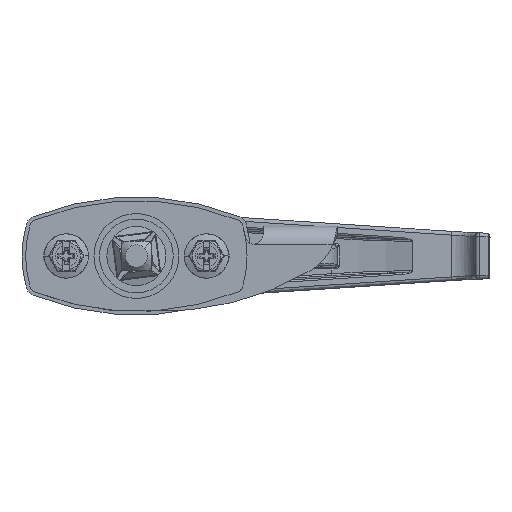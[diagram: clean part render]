
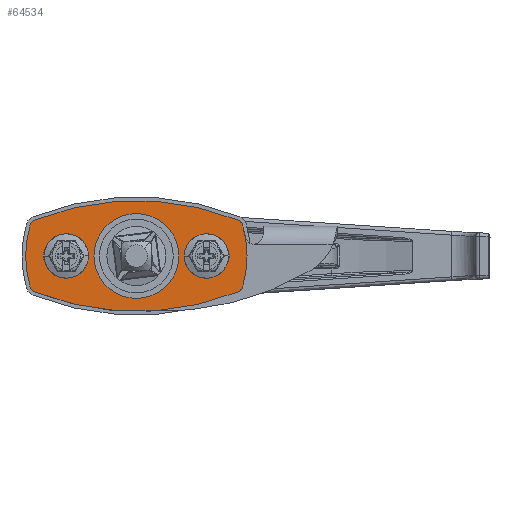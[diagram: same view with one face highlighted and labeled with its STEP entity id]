
A CAD part, front view. The second image highlights one B-rep face of the part: STEP entity #64534.
In plain terms, the highlighted planar face has unit normal (0, -1, 0).
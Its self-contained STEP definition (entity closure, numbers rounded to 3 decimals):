
#64241=CARTESIAN_POINT('',(-109.63,75.5,-16.209));
#64242=DIRECTION('',(0.,-1.,0.));
#64243=DIRECTION('',(-1.,0.,0.));
#64244=AXIS2_PLACEMENT_3D('',#64241,#64242,#64243);
#64246=CARTESIAN_POINT('',(-109.63,75.5,-16.209));
#64247=DIRECTION('',(0.,-1.,0.));
#64248=DIRECTION('',(1.,0.,0.));
#64249=AXIS2_PLACEMENT_3D('',#64246,#64247,#64248);
#64251=CARTESIAN_POINT('',(-90.63,75.5,-16.209));
#64252=DIRECTION('',(0.,-1.,0.));
#64253=DIRECTION('',(0.636,0.,0.771));
#64254=AXIS2_PLACEMENT_3D('',#64251,#64252,#64253);
#64256=CARTESIAN_POINT('',(-87.13,75.5,-16.209));
#64257=DIRECTION('',(0.,-1.,0.));
#64258=DIRECTION('',(-0.636,0.,-0.771));
#64259=AXIS2_PLACEMENT_3D('',#64256,#64257,#64258);
#64261=CARTESIAN_POINT('',(-128.63,75.5,-16.209));
#64262=DIRECTION('',(0.,-1.,0.));
#64263=DIRECTION('',(-0.636,0.,-0.771));
#64264=AXIS2_PLACEMENT_3D('',#64261,#64262,#64263);
#64266=CARTESIAN_POINT('',(-132.13,75.5,-16.209));
#64267=DIRECTION('',(0.,-1.,0.));
#64268=DIRECTION('',(0.636,0.,0.771));
#64269=AXIS2_PLACEMENT_3D('',#64266,#64267,#64268);
#64271=CARTESIAN_POINT('',(-82.753,75.5,-8.357));
#64272=DIRECTION('',(0.,-1.,0.));
#64273=DIRECTION('',(0.96,0.,0.28));
#64274=AXIS2_PLACEMENT_3D('',#64271,#64272,#64273);
#64276=CARTESIAN_POINT('',(-109.63,75.5,-16.209));
#64277=DIRECTION('',(0.,1.,0.));
#64278=DIRECTION('',(0.96,0.,0.28));
#64279=AXIS2_PLACEMENT_3D('',#64276,#64277,#64278);
#64281=CARTESIAN_POINT('',(-82.753,75.5,-24.061));
#64282=DIRECTION('',(0.,-1.,0.));
#64283=DIRECTION('',(0.37,0.,-0.929));
#64284=AXIS2_PLACEMENT_3D('',#64281,#64282,#64283);
#64286=CARTESIAN_POINT('',(-109.63,75.5,43.525));
#64287=DIRECTION('',(0.,1.,0.));
#64288=DIRECTION('',(0.37,0.,-0.929));
#64289=AXIS2_PLACEMENT_3D('',#64286,#64287,#64288);
#64291=CARTESIAN_POINT('',(-136.506,75.5,-24.061));
#64292=DIRECTION('',(0.,-1.,0.));
#64293=DIRECTION('',(-0.96,0.,-0.28));
#64294=AXIS2_PLACEMENT_3D('',#64291,#64292,#64293);
#64296=CARTESIAN_POINT('',(-109.63,75.5,-16.209));
#64297=DIRECTION('',(0.,1.,0.));
#64298=DIRECTION('',(-0.96,0.,-0.28));
#64299=AXIS2_PLACEMENT_3D('',#64296,#64297,#64298);
#64301=CARTESIAN_POINT('',(-136.506,75.5,-8.357));
#64302=DIRECTION('',(0.,-1.,0.));
#64303=DIRECTION('',(-0.37,0.,0.929));
#64304=AXIS2_PLACEMENT_3D('',#64301,#64302,#64303);
#64306=CARTESIAN_POINT('',(-109.63,75.5,-75.944));
#64307=DIRECTION('',(0.,1.,0.));
#64308=DIRECTION('',(-0.37,0.,0.929));
#64309=AXIS2_PLACEMENT_3D('',#64306,#64307,#64308);
#64437=CARTESIAN_POINT('',(-121.13,75.5,-16.209));
#64438=CARTESIAN_POINT('',(-98.13,75.5,-16.209));
#64439=VERTEX_POINT('',#64437);
#64440=VERTEX_POINT('',#64438);
#64441=CARTESIAN_POINT('',(-88.88,75.5,-14.088));
#64442=CARTESIAN_POINT('',(-88.88,75.5,-18.33));
#64443=VERTEX_POINT('',#64441);
#64444=VERTEX_POINT('',#64442);
#64445=CARTESIAN_POINT('',(-130.38,75.5,-18.33));
#64446=CARTESIAN_POINT('',(-130.38,75.5,-14.088));
#64447=VERTEX_POINT('',#64445);
#64448=VERTEX_POINT('',#64446);
#64461=CARTESIAN_POINT('',(-80.833,75.5,-7.796));
#64462=CARTESIAN_POINT('',(-82.014,75.5,-6.498));
#64463=VERTEX_POINT('',#64461);
#64464=VERTEX_POINT('',#64462);
#64469=CARTESIAN_POINT('',(-82.014,75.5,-25.92));
#64470=CARTESIAN_POINT('',(-80.833,75.5,-24.622));
#64471=VERTEX_POINT('',#64469);
#64472=VERTEX_POINT('',#64470);
#64477=CARTESIAN_POINT('',(-137.245,75.5,-6.498));
#64478=CARTESIAN_POINT('',(-138.426,75.5,-7.796));
#64479=VERTEX_POINT('',#64477);
#64480=VERTEX_POINT('',#64478);
#64485=CARTESIAN_POINT('',(-138.426,75.5,-24.622));
#64486=CARTESIAN_POINT('',(-137.245,75.5,-25.92));
#64487=VERTEX_POINT('',#64485);
#64488=VERTEX_POINT('',#64486);
#64493=CARTESIAN_POINT('',(-109.63,75.5,-16.209));
#64494=DIRECTION('',(0.,1.,0.));
#64495=DIRECTION('',(-1.,0.,0.));
#64496=AXIS2_PLACEMENT_3D('',#64493,#64494,#64495);
#64497=PLANE('',#64496);
#64499=ORIENTED_EDGE('',*,*,#64498,.F.);
#64501=ORIENTED_EDGE('',*,*,#64500,.T.);
#64503=ORIENTED_EDGE('',*,*,#64502,.F.);
#64505=ORIENTED_EDGE('',*,*,#64504,.T.);
#64507=ORIENTED_EDGE('',*,*,#64506,.F.);
#64509=ORIENTED_EDGE('',*,*,#64508,.T.);
#64511=ORIENTED_EDGE('',*,*,#64510,.F.);
#64513=ORIENTED_EDGE('',*,*,#64512,.T.);
#64514=EDGE_LOOP('',(#64499,#64501,#64503,#64505,#64507,#64509,#64511,#64513));
#64515=FACE_OUTER_BOUND('',#64514,.F.);
#64517=ORIENTED_EDGE('',*,*,#64516,.T.);
#64519=ORIENTED_EDGE('',*,*,#64518,.T.);
#64520=EDGE_LOOP('',(#64517,#64519));
#64521=FACE_BOUND('',#64520,.F.);
#64523=ORIENTED_EDGE('',*,*,#64522,.T.);
#64525=ORIENTED_EDGE('',*,*,#64524,.T.);
#64526=EDGE_LOOP('',(#64523,#64525));
#64527=FACE_BOUND('',#64526,.F.);
#64529=ORIENTED_EDGE('',*,*,#64528,.T.);
#64531=ORIENTED_EDGE('',*,*,#64530,.T.);
#64532=EDGE_LOOP('',(#64529,#64531));
#64533=FACE_BOUND('',#64532,.F.);
#64534=ADVANCED_FACE('',(#64515,#64521,#64527,#64533),#64497,.F.);
#64245=CIRCLE('',#64244,11.5);
#64250=CIRCLE('',#64249,11.5);
#64255=CIRCLE('',#64254,2.75);
#64260=CIRCLE('',#64259,2.75);
#64265=CIRCLE('',#64264,2.75);
#64270=CIRCLE('',#64269,2.75);
#64275=CIRCLE('',#64274,2.);
#64280=CIRCLE('',#64279,30.);
#64285=CIRCLE('',#64284,2.);
#64290=CIRCLE('',#64289,74.735);
#64295=CIRCLE('',#64294,2.);
#64300=CIRCLE('',#64299,30.);
#64305=CIRCLE('',#64304,2.);
#64310=CIRCLE('',#64309,74.735);
#64498=EDGE_CURVE('',#64463,#64464,#64275,.T.);
#64500=EDGE_CURVE('',#64463,#64472,#64280,.T.);
#64502=EDGE_CURVE('',#64471,#64472,#64285,.T.);
#64504=EDGE_CURVE('',#64471,#64488,#64290,.T.);
#64506=EDGE_CURVE('',#64487,#64488,#64295,.T.);
#64508=EDGE_CURVE('',#64487,#64480,#64300,.T.);
#64510=EDGE_CURVE('',#64479,#64480,#64305,.T.);
#64512=EDGE_CURVE('',#64479,#64464,#64310,.T.);
#64516=EDGE_CURVE('',#64443,#64444,#64255,.T.);
#64518=EDGE_CURVE('',#64444,#64443,#64260,.T.);
#64522=EDGE_CURVE('',#64447,#64448,#64265,.T.);
#64524=EDGE_CURVE('',#64448,#64447,#64270,.T.);
#64528=EDGE_CURVE('',#64439,#64440,#64245,.T.);
#64530=EDGE_CURVE('',#64440,#64439,#64250,.T.);
